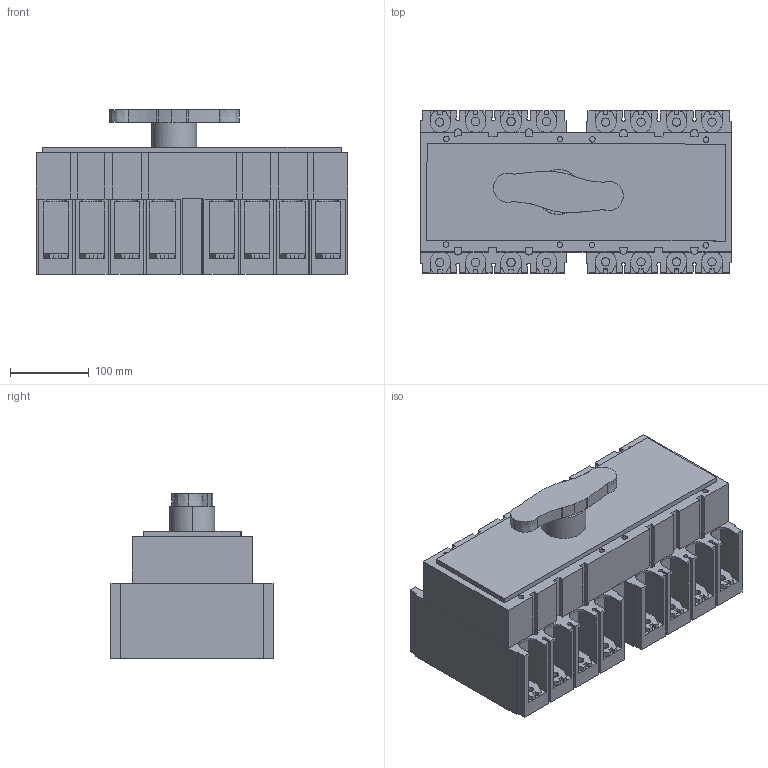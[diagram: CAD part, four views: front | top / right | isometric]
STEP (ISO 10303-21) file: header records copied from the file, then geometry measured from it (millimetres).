
FILE_DESCRIPTION((''),'2;1');
FILE_NAME('SB105805_3D_COLOUR','2013-07-24T',('SESA214371'),('Schneider-Electric'),'PRO/ENGINEER BY PARAMETRIC TECHNOLOGY CORPORATION, 2011410','PRO/ENGINEER BY PARAMETRIC TECHNOLOGY CORPORATION, 2011410','');
FILE_SCHEMA(('CONFIG_CONTROL_DESIGN'));
Length unit declared in the file: millimetre
Products named in the file (1): SB105805_3D_COLOUR
Bounding box: 395.5 x 206.71 x 209.15 mm (x, y, z)
Volume: 10070339.9 mm3; surface area: 548722 mm2
Topology: 1 solids, 1 shells, 627 faces, 1786 edges, 1188 vertices
Faces by surface type: plane 525, cylinder 98, extrusion 4
Entity records: 20460 total; most frequent: CARTESIAN_POINT 3775, ORIENTED_EDGE 3572, DIRECTION 3342, EDGE_CURVE 1786, VECTOR 1456, LINE 1452, VERTEX_POINT 1188, AXIS2_PLACEMENT_3D 943
